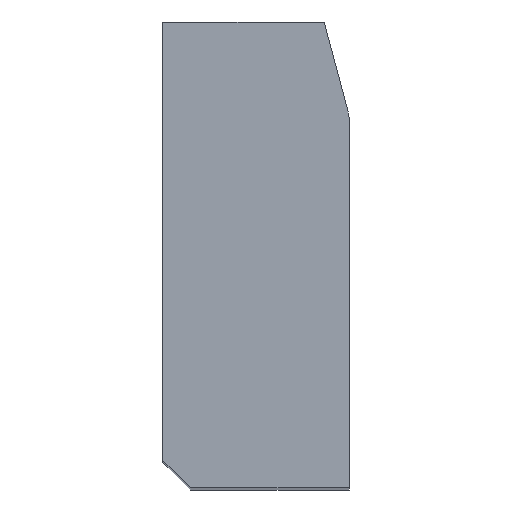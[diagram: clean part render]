
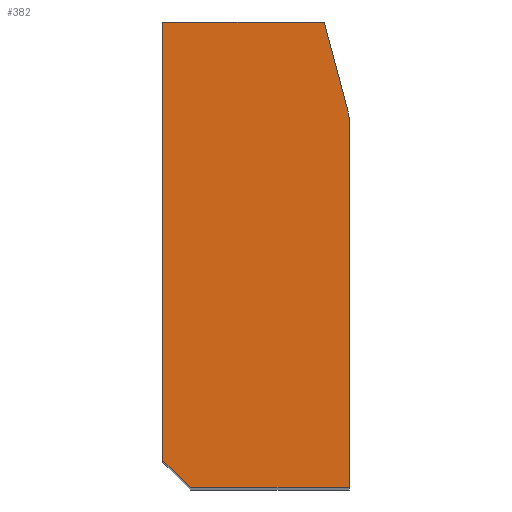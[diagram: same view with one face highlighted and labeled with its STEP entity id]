
A CAD part, top view. The second image highlights one B-rep face of the part: STEP entity #382.
In plain terms, the highlighted planar face has unit normal (0, 0, 1).
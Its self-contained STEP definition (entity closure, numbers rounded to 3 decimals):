
#70=CARTESIAN_POINT('Vertex',(0.,3.,62.5)) ;
#73=CARTESIAN_POINT('Line Origine',(0.,26.5,62.5)) ;
#77=CARTESIAN_POINT('Vertex',(0.,50.,62.5)) ;
#320=CARTESIAN_POINT('Vertex',(3.,0.,62.5)) ;
#323=CARTESIAN_POINT('Line Origine',(1.5,1.5,62.5)) ;
#335=CARTESIAN_POINT('Axis2P3D Location',(15.,39.342,62.5)) ;
#340=CARTESIAN_POINT('Line Origine',(11.5,0.,62.5)) ;
#344=CARTESIAN_POINT('Vertex',(20.,0.,62.5)) ;
#347=CARTESIAN_POINT('Line Origine',(20.,19.671,62.5)) ;
#351=CARTESIAN_POINT('Vertex',(20.,39.342,62.5)) ;
#354=CARTESIAN_POINT('Axis2P3D Location',(15.,39.342,62.5)) ;
#358=CARTESIAN_POINT('Vertex',(19.83,40.636,62.5)) ;
#361=CARTESIAN_POINT('Line Origine',(18.575,45.318,62.5)) ;
#365=CARTESIAN_POINT('Vertex',(17.321,50.,62.5)) ;
#368=CARTESIAN_POINT('Line Origine',(8.66,50.,62.5)) ;
#74=DIRECTION('Vector Direction',(0.,-1.,0.)) ;
#324=DIRECTION('Vector Direction',(0.707,-0.707,0.)) ;
#336=DIRECTION('Axis2P3D Direction',(0.,0.,1.)) ;
#337=DIRECTION('Axis2P3D XDirection',(1.,0.,-0.)) ;
#341=DIRECTION('Vector Direction',(1.,0.,0.)) ;
#348=DIRECTION('Vector Direction',(0.,1.,0.)) ;
#355=DIRECTION('Axis2P3D Direction',(0.,0.,1.)) ;
#362=DIRECTION('Vector Direction',(-0.259,0.966,0.)) ;
#369=DIRECTION('Vector Direction',(-1.,0.,0.)) ;
#338=AXIS2_PLACEMENT_3D('Plane Axis2P3D',#335,#336,#337) ;
#356=AXIS2_PLACEMENT_3D('Circle Axis2P3D',#354,#355,$) ;
#374=ORIENTED_EDGE('',*,*,#79,.T.) ;
#375=ORIENTED_EDGE('',*,*,#327,.T.) ;
#376=ORIENTED_EDGE('',*,*,#346,.T.) ;
#377=ORIENTED_EDGE('',*,*,#353,.T.) ;
#378=ORIENTED_EDGE('',*,*,#360,.T.) ;
#379=ORIENTED_EDGE('',*,*,#367,.T.) ;
#380=ORIENTED_EDGE('',*,*,#372,.T.) ;
#75=VECTOR('Line Direction',#74,1.) ;
#325=VECTOR('Line Direction',#324,1.) ;
#342=VECTOR('Line Direction',#341,1.) ;
#349=VECTOR('Line Direction',#348,1.) ;
#363=VECTOR('Line Direction',#362,1.) ;
#370=VECTOR('Line Direction',#369,1.) ;
#382=ADVANCED_FACE('A915-125X50',(#381),#339,.T.) ;
#357=CIRCLE('generated circle',#356,5.) ;
#79=EDGE_CURVE('',#78,#71,#76,.T.) ;
#327=EDGE_CURVE('',#71,#321,#326,.T.) ;
#346=EDGE_CURVE('',#321,#345,#343,.T.) ;
#353=EDGE_CURVE('',#345,#352,#350,.T.) ;
#360=EDGE_CURVE('',#352,#359,#357,.T.) ;
#367=EDGE_CURVE('',#359,#366,#364,.T.) ;
#372=EDGE_CURVE('',#366,#78,#371,.T.) ;
#373=EDGE_LOOP('',(#374,#375,#376,#377,#378,#379,#380)) ;
#381=FACE_OUTER_BOUND('',#373,.T.) ;
#76=LINE('Line',#73,#75) ;
#326=LINE('Line',#323,#325) ;
#343=LINE('Line',#340,#342) ;
#350=LINE('Line',#347,#349) ;
#364=LINE('Line',#361,#363) ;
#371=LINE('Line',#368,#370) ;
#339=PLANE('Plane',#338) ;
#71=VERTEX_POINT('',#70) ;
#78=VERTEX_POINT('',#77) ;
#321=VERTEX_POINT('',#320) ;
#345=VERTEX_POINT('',#344) ;
#352=VERTEX_POINT('',#351) ;
#359=VERTEX_POINT('',#358) ;
#366=VERTEX_POINT('',#365) ;
